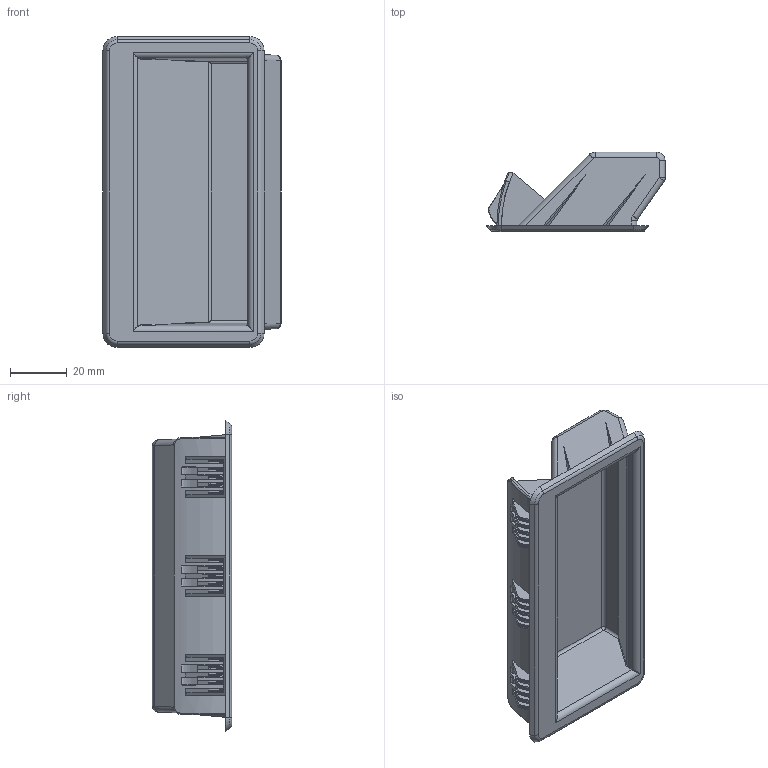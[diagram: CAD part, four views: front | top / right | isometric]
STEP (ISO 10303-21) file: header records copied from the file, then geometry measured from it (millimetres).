
FILE_DESCRIPTION (( 'STEP AP203' ), '1' );
FILE_NAME ('LS537N00000001.STEP', '2016-07-13T01:33:04', ( 'master' ), ( 'Microsoft' ), 'SwSTEP 2.0', 'SolidWorks 2014', '' );
FILE_SCHEMA (( 'CONFIG_CONTROL_DESIGN' ));
Length unit declared in the file: millimetre
Products named in the file (1): LS537N00000001
Bounding box: 63 x 28 x 110 mm (x, y, z)
Volume: 26304.6 mm3; surface area: 31171.4 mm2
Topology: 1 solids, 1 shells, 616 faces, 1776 edges, 1148 vertices
Faces by surface type: plane 343, cylinder 171, bspline 92, torus 6, cone 4
Entity records: 22909 total; most frequent: CARTESIAN_POINT 9205, ORIENTED_EDGE 3532, DIRECTION 1826, EDGE_CURVE 1766, VERTEX_POINT 1148, B_SPLINE_CURVE_WITH_KNOTS 994, VECTOR 632, LINE 632
